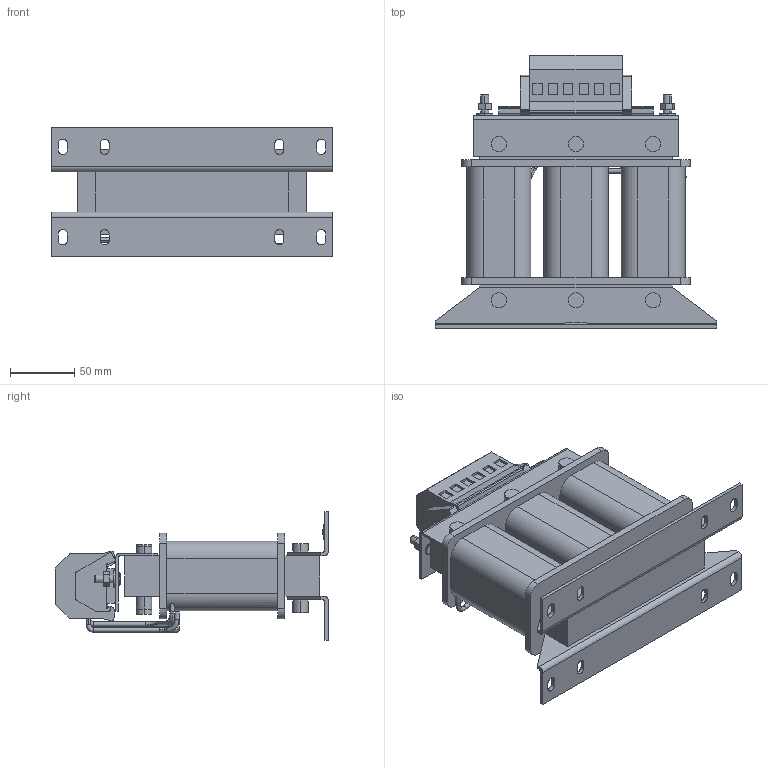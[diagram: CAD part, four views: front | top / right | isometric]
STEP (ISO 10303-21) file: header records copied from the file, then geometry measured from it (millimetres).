
FILE_DESCRIPTION (( 'STEP AP214' ), '1' );
FILE_NAME ('00Z10X0-0017.STEP', '2021-07-14T14:17:22', ( '' ), ( '' ), 'SwSTEP 2.0', 'SolidWorks 2019', '' );
FILE_SCHEMA (( 'AUTOMOTIVE_DESIGN' ));
Length unit declared in the file: millimetre
Products named in the file (1): 00Z10X0-0017
Bounding box: 219 x 212.6 x 100.3 mm (x, y, z)
Volume: 1344357.2 mm3; surface area: 192724.2 mm2
Topology: 1 solids, 1 shells, 466 faces, 1221 edges, 792 vertices
Faces by surface type: plane 230, cylinder 165, torus 42, bspline 25, cone 4
Entity records: 16748 total; most frequent: CARTESIAN_POINT 4883, ORIENTED_EDGE 2442, DIRECTION 2367, EDGE_CURVE 1221, AXIS2_PLACEMENT_3D 848, VERTEX_POINT 792, LINE 671, VECTOR 671
